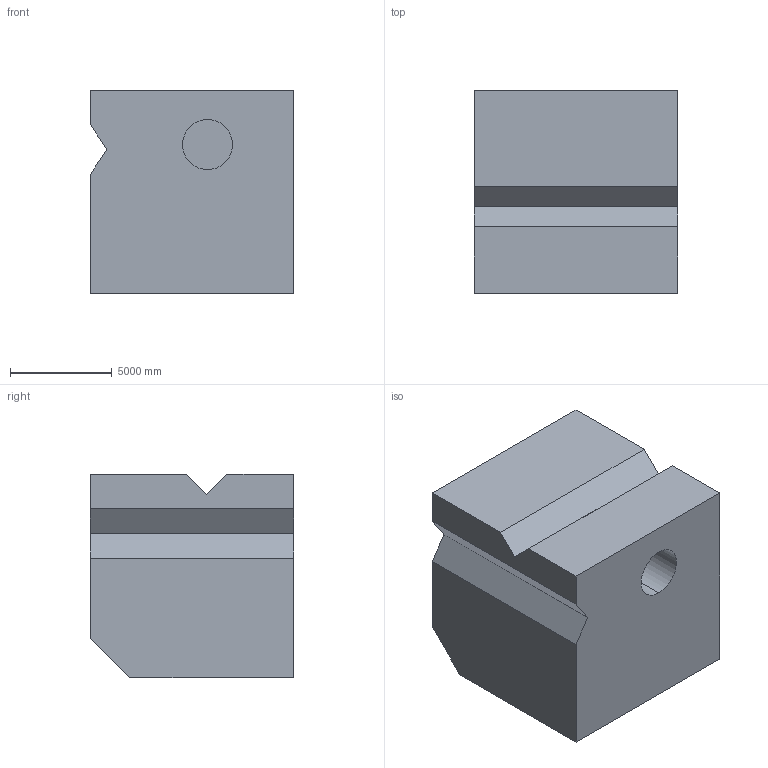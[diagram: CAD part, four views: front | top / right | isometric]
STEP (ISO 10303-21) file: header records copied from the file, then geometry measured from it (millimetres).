
FILE_DESCRIPTION (( 'STEP AP203' ), '1' );
FILE_NAME ('419.STEP', '2022-07-29T11:12:19', ( 'user' ), ( '' ), 'SwSTEP 2.0', 'SolidWorks 2021', '' );
FILE_SCHEMA (( 'CONFIG_CONTROL_DESIGN' ));
Length unit declared in the file: centimetre
Products named in the file (1): 419
Bounding box: 10000 x 10000 x 10000 mm (x, y, z)
Volume: 930811359000.2 mm3; surface area: 640587069 mm2
Topology: 1 solids, 1 shells, 21 faces, 51 edges, 34 vertices
Faces by surface type: plane 19, cylinder 2
Entity records: 686 total; most frequent: CARTESIAN_POINT 107, ORIENTED_EDGE 102, DIRECTION 99, EDGE_CURVE 51, VECTOR 47, LINE 47, VERTEX_POINT 34, AXIS2_PLACEMENT_3D 26
